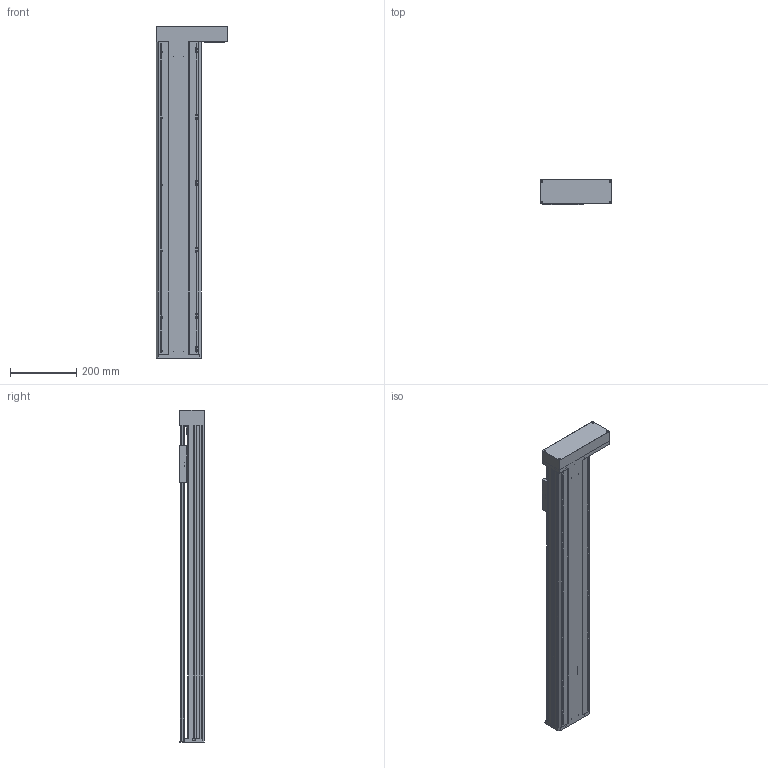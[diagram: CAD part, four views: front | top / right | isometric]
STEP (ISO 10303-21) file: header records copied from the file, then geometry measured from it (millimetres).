
FILE_DESCRIPTION(/* description */ (''),/* implementation_level */ '2;1');
FILE_NAME(/* name */ 'TKA136-FR-750_asm1.stp',/* time_stamp */ '2016-05-07T14:42:05+08:00',/* author */ (''),/* organization */ (''),/* preprocessor_version */ 'ST-DEVELOPER v15',/* originating_system */ 'SIEMENS PLM Software NX 8.5',/* authorisation */ '');
FILE_SCHEMA (('AUTOMOTIVE_DESIGN { 1 0 10303 214 3 1 1 1 }'));
Length unit declared in the file: millimetre
Products named in the file (3): 100-02; 100-01; TKA136-FR-750_asm1
Assembly tree (2 placements, depth 2):
  TKA136-FR-750_asm1
    100-01
    100-02
Bounding box: 216 x 75 x 1000 mm (x, y, z)
Volume: 3120703 mm3; surface area: 1217179.8 mm2
Topology: 2 solids, 12 shells, 897 faces, 2554 edges, 1671 vertices
Faces by surface type: cylinder 427, plane 417, cone 53
Full cylindrical faces by diameter (mm): 2.5 x4, 3 x2, 3.3 x15, 4 x4, 4.2 x14, 4.5 x26, 5 x16, 5.5 x26, 6.6 x16, 8 x20, 10 x9, 10.5 x12, 11 x4, 11.6 x1, 12 x9, 15 x3, 16 x5, 17 x1, 24 x5, 26 x1, 28 x1, 46 x2, 50 x1
Entity records: 30153 total; most frequent: CARTESIAN_POINT 8066, DIRECTION 4577, ORIENTED_EDGE 4294, EDGE_CURVE 2147, AXIS2_PLACEMENT_3D 1745, VERTEX_POINT 1539, EDGE_LOOP 1323, LINE 1087
